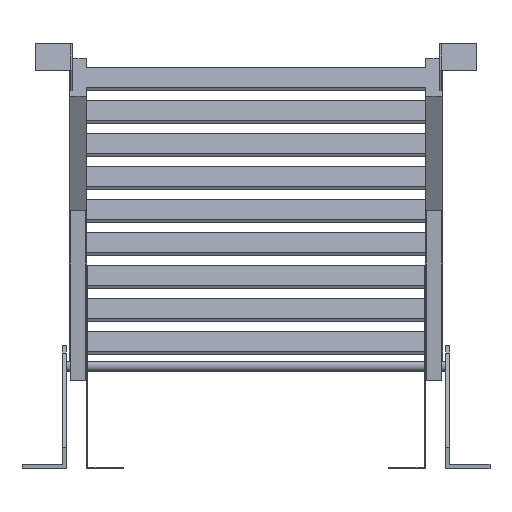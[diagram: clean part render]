
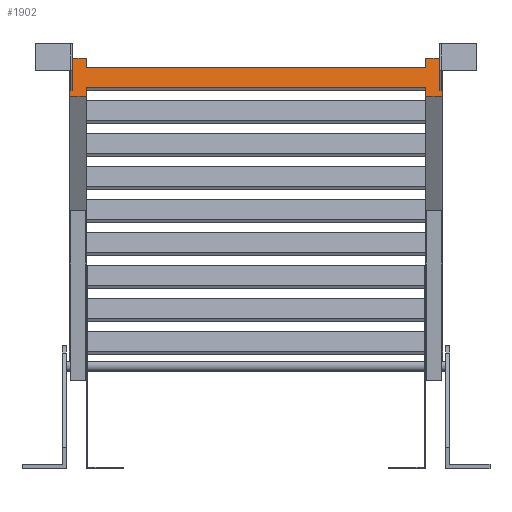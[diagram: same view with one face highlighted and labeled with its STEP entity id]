
A CAD part, front view. The second image highlights one B-rep face of the part: STEP entity #1902.
In plain terms, the highlighted planar face has unit normal (0, -0.985, 0.174).
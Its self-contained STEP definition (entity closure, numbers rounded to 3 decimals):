
#589=DIRECTION('',(1.,0.,0.));
#590=VECTOR('',#589,500.);
#591=CARTESIAN_POINT('',(-250.,-2109.496,562.106));
#592=LINE('',#591,#590);
#597=DIRECTION('',(0.,0.174,0.985));
#598=VECTOR('',#597,13.5);
#599=CARTESIAN_POINT('',(-250.,-2104.286,591.651));
#600=LINE('',#599,#598);
#601=DIRECTION('',(0.,-0.174,-0.985));
#602=VECTOR('',#601,13.5);
#603=CARTESIAN_POINT('',(250.,-2101.942,604.945));
#604=LINE('',#603,#602);
#605=DIRECTION('',(-1.,0.,0.));
#606=VECTOR('',#605,25.);
#607=CARTESIAN_POINT('',(275.,-2101.942,604.945));
#608=LINE('',#607,#606);
#609=DIRECTION('',(0.,0.174,0.985));
#610=VECTOR('',#609,57.);
#611=CARTESIAN_POINT('',(275.,-2111.84,548.811));
#612=LINE('',#611,#610);
#613=DIRECTION('',(1.,0.,0.));
#614=VECTOR('',#613,25.);
#615=CARTESIAN_POINT('',(250.,-2111.84,548.811));
#616=LINE('',#615,#614);
#617=DIRECTION('',(0.,-0.174,-0.985));
#618=VECTOR('',#617,13.5);
#619=CARTESIAN_POINT('',(250.,-2109.496,562.106));
#620=LINE('',#619,#618);
#621=DIRECTION('',(0.,0.174,0.985));
#622=VECTOR('',#621,13.5);
#623=CARTESIAN_POINT('',(-250.,-2111.84,548.811));
#624=LINE('',#623,#622);
#625=DIRECTION('',(1.,0.,0.));
#626=VECTOR('',#625,25.);
#627=CARTESIAN_POINT('',(-275.,-2111.84,548.811));
#628=LINE('',#627,#626);
#629=DIRECTION('',(0.,-0.174,-0.985));
#630=VECTOR('',#629,57.);
#631=CARTESIAN_POINT('',(-275.,-2101.942,604.945));
#632=LINE('',#631,#630);
#633=DIRECTION('',(-1.,0.,0.));
#634=VECTOR('',#633,25.);
#635=CARTESIAN_POINT('',(-250.,-2101.942,604.945));
#636=LINE('',#635,#634);
#637=DIRECTION('',(1.,0.,0.));
#638=VECTOR('',#637,2.);
#639=CARTESIAN_POINT('',(-273.,-2110.364,557.182));
#640=LINE('',#639,#638);
#641=DIRECTION('',(0.,0.174,0.985));
#642=VECTOR('',#641,40.);
#643=CARTESIAN_POINT('',(-271.,-2110.364,557.182));
#644=LINE('',#643,#642);
#645=DIRECTION('',(1.,0.,0.));
#646=VECTOR('',#645,2.);
#647=CARTESIAN_POINT('',(-273.,-2103.418,596.575));
#648=LINE('',#647,#646);
#649=DIRECTION('',(0.,0.174,0.985));
#650=VECTOR('',#649,40.);
#651=CARTESIAN_POINT('',(-273.,-2110.364,557.182));
#652=LINE('',#651,#650);
#653=DIRECTION('',(1.,0.,0.));
#654=VECTOR('',#653,2.);
#655=CARTESIAN_POINT('',(271.,-2110.364,557.182));
#656=LINE('',#655,#654);
#657=DIRECTION('',(0.,0.174,0.985));
#658=VECTOR('',#657,40.);
#659=CARTESIAN_POINT('',(273.,-2110.364,557.182));
#660=LINE('',#659,#658);
#661=DIRECTION('',(1.,0.,0.));
#662=VECTOR('',#661,2.);
#663=CARTESIAN_POINT('',(271.,-2103.418,596.575));
#664=LINE('',#663,#662);
#665=DIRECTION('',(0.,0.174,0.985));
#666=VECTOR('',#665,40.);
#667=CARTESIAN_POINT('',(271.,-2110.364,557.182));
#668=LINE('',#667,#666);
#673=DIRECTION('',(1.,0.,0.));
#674=VECTOR('',#673,500.);
#675=CARTESIAN_POINT('',(-250.,-2104.286,591.651));
#676=LINE('',#675,#674);
#897=CARTESIAN_POINT('',(-250.,-2101.942,604.945));
#898=CARTESIAN_POINT('',(-275.,-2101.942,604.945));
#899=VERTEX_POINT('',#897);
#900=VERTEX_POINT('',#898);
#901=CARTESIAN_POINT('',(-275.,-2111.84,548.811));
#902=CARTESIAN_POINT('',(-250.,-2111.84,548.811));
#903=VERTEX_POINT('',#901);
#904=VERTEX_POINT('',#902);
#905=CARTESIAN_POINT('',(275.,-2111.84,548.811));
#906=CARTESIAN_POINT('',(275.,-2101.942,604.945));
#907=VERTEX_POINT('',#905);
#908=VERTEX_POINT('',#906);
#909=CARTESIAN_POINT('',(250.,-2111.84,548.811));
#910=VERTEX_POINT('',#909);
#911=CARTESIAN_POINT('',(250.,-2101.942,604.945));
#912=VERTEX_POINT('',#911);
#1041=CARTESIAN_POINT('',(-250.,-2109.496,562.106));
#1043=VERTEX_POINT('',#1041);
#1045=CARTESIAN_POINT('',(-250.,-2104.286,591.651));
#1047=VERTEX_POINT('',#1045);
#1049=CARTESIAN_POINT('',(250.,-2109.496,562.106));
#1051=VERTEX_POINT('',#1049);
#1053=CARTESIAN_POINT('',(250.,-2104.286,591.651));
#1055=VERTEX_POINT('',#1053);
#1105=CARTESIAN_POINT('',(-273.,-2110.364,557.182));
#1106=CARTESIAN_POINT('',(-271.,-2110.364,557.182));
#1107=VERTEX_POINT('',#1105);
#1108=VERTEX_POINT('',#1106);
#1109=CARTESIAN_POINT('',(-273.,-2103.418,596.575));
#1110=CARTESIAN_POINT('',(-271.,-2103.418,596.575));
#1111=VERTEX_POINT('',#1109);
#1112=VERTEX_POINT('',#1110);
#1129=CARTESIAN_POINT('',(271.,-2110.364,557.182));
#1130=CARTESIAN_POINT('',(273.,-2110.364,557.182));
#1131=VERTEX_POINT('',#1129);
#1132=VERTEX_POINT('',#1130);
#1133=CARTESIAN_POINT('',(271.,-2103.418,596.575));
#1134=CARTESIAN_POINT('',(273.,-2103.418,596.575));
#1135=VERTEX_POINT('',#1133);
#1136=VERTEX_POINT('',#1134);
#1858=CARTESIAN_POINT('',(0.,-2142.012,377.695));
#1859=DIRECTION('',(0.,0.985,-0.174));
#1860=DIRECTION('',(1.,0.,0.));
#1861=AXIS2_PLACEMENT_3D('',#1858,#1859,#1860);
#1862=PLANE('',#1861);
#1863=ORIENTED_EDGE('',*,*,#1235,.F.);
#1865=ORIENTED_EDGE('',*,*,#1864,.T.);
#1866=ORIENTED_EDGE('',*,*,#1395,.F.);
#1868=ORIENTED_EDGE('',*,*,#1867,.F.);
#1870=ORIENTED_EDGE('',*,*,#1869,.F.);
#1871=ORIENTED_EDGE('',*,*,#1162,.F.);
#1872=ORIENTED_EDGE('',*,*,#1389,.F.);
#1873=ORIENTED_EDGE('',*,*,#1850,.F.);
#1874=ORIENTED_EDGE('',*,*,#1241,.F.);
#1876=ORIENTED_EDGE('',*,*,#1875,.F.);
#1878=ORIENTED_EDGE('',*,*,#1877,.F.);
#1879=ORIENTED_EDGE('',*,*,#1217,.F.);
#1880=EDGE_LOOP('',(#1863,#1865,#1866,#1868,#1870,#1871,#1872,#1873,#1874,#1876,
#1878,#1879));
#1881=FACE_OUTER_BOUND('',#1880,.F.);
#1883=ORIENTED_EDGE('',*,*,#1882,.T.);
#1885=ORIENTED_EDGE('',*,*,#1884,.T.);
#1887=ORIENTED_EDGE('',*,*,#1886,.F.);
#1889=ORIENTED_EDGE('',*,*,#1888,.F.);
#1890=EDGE_LOOP('',(#1883,#1885,#1887,#1889));
#1891=FACE_BOUND('',#1890,.F.);
#1893=ORIENTED_EDGE('',*,*,#1892,.T.);
#1895=ORIENTED_EDGE('',*,*,#1894,.T.);
#1897=ORIENTED_EDGE('',*,*,#1896,.F.);
#1899=ORIENTED_EDGE('',*,*,#1898,.F.);
#1900=EDGE_LOOP('',(#1893,#1895,#1897,#1899));
#1901=FACE_BOUND('',#1900,.F.);
#1162=EDGE_CURVE('',#910,#907,#616,.T.);
#1217=EDGE_CURVE('',#899,#900,#636,.T.);
#1235=EDGE_CURVE('',#1047,#899,#600,.T.);
#1241=EDGE_CURVE('',#904,#1043,#624,.T.);
#1389=EDGE_CURVE('',#1051,#910,#620,.T.);
#1395=EDGE_CURVE('',#912,#1055,#604,.T.);
#1850=EDGE_CURVE('',#1043,#1051,#592,.T.);
#1864=EDGE_CURVE('',#1047,#1055,#676,.T.);
#1867=EDGE_CURVE('',#908,#912,#608,.T.);
#1869=EDGE_CURVE('',#907,#908,#612,.T.);
#1875=EDGE_CURVE('',#903,#904,#628,.T.);
#1877=EDGE_CURVE('',#900,#903,#632,.T.);
#1882=EDGE_CURVE('',#1107,#1108,#640,.T.);
#1884=EDGE_CURVE('',#1108,#1112,#644,.T.);
#1886=EDGE_CURVE('',#1111,#1112,#648,.T.);
#1888=EDGE_CURVE('',#1107,#1111,#652,.T.);
#1892=EDGE_CURVE('',#1131,#1132,#656,.T.);
#1894=EDGE_CURVE('',#1132,#1136,#660,.T.);
#1896=EDGE_CURVE('',#1135,#1136,#664,.T.);
#1898=EDGE_CURVE('',#1131,#1135,#668,.T.);
#1902=ADVANCED_FACE('',(#1881,#1891,#1901),#1862,.F.);
